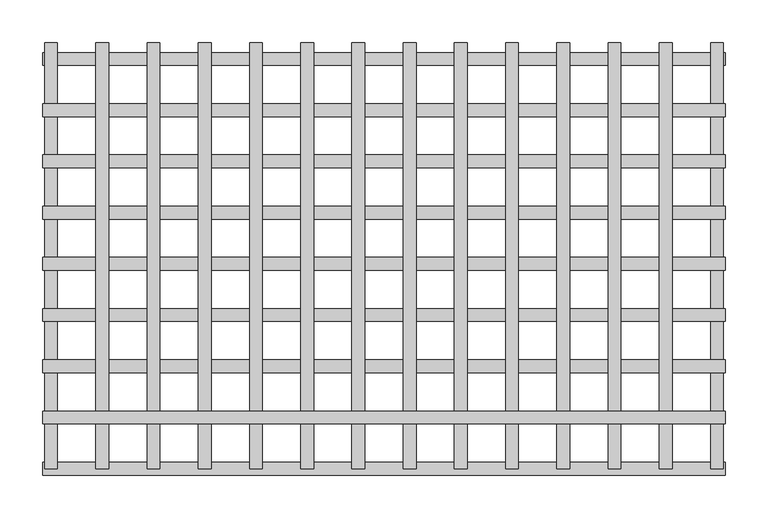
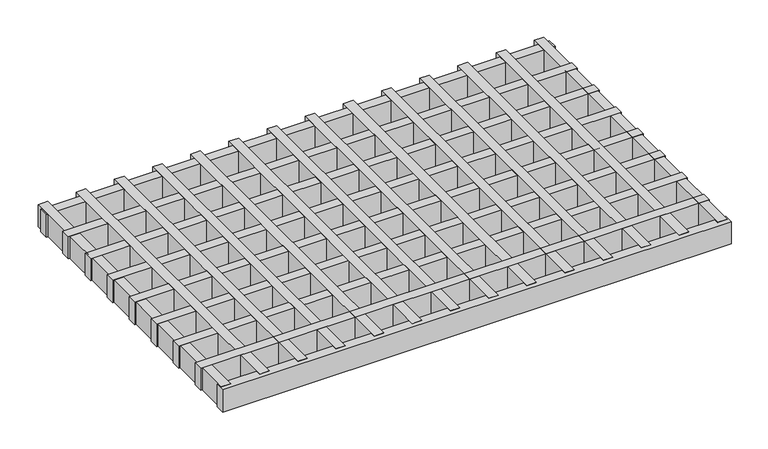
"""IFC4 building model written with IfcOpenShell, lengths in millimetres: proxy geometry, durlum_GEO_panel : durlum_GEO_15_corner_cut."""

from ifc_helpers import new_model, si_unit, origin, origin_with_axes, place, context, project, spatial, polyline, outline, extrude, source, transform, mapped, element, save


def generic_models_b3dbf1f4(model_context):
    return source(origin(), model_context, "Body", "SweptSolid", [
        extrude(outline(polyline([(399.75, -182.0), (399.75, -197.0), (-399.75, -197.0), (-399.75, -182.0), (399.75, -182.0)])), origin_with_axes(), (0.0, 0.0, 1.0), 37.0),
        extrude(outline(polyline([(322.5, 249.5), (337.5, 249.5), (337.5, -249.5), (322.5, -249.5), (322.5, 249.5)])), origin_with_axes(), (0.0, 0.0, 1.0), 37.0),
        extrude(outline(polyline([(262.5, 249.5), (277.5, 249.5), (277.5, -249.5), (262.5, -249.5), (262.5, 249.5)])), origin_with_axes(), (0.0, 0.0, 1.0), 37.0),
        extrude(outline(polyline([(202.5, 249.5), (217.5, 249.5), (217.5, -249.5), (202.5, -249.5), (202.5, 249.5)])), origin_with_axes(), (0.0, 0.0, 1.0), 37.0),
        extrude(outline(polyline([(142.5, 249.5), (157.5, 249.5), (157.5, -249.5), (142.5, -249.5), (142.5, 249.5)])), origin_with_axes(), (0.0, 0.0, 1.0), 37.0),
        extrude(outline(polyline([(82.5, 249.5), (97.5, 249.5), (97.5, -249.5), (82.5, -249.5), (82.5, 249.5)])), origin_with_axes(), (0.0, 0.0, 1.0), 37.0),
        extrude(outline(polyline([(22.5, 249.5), (37.5, 249.5), (37.5, -249.5), (22.5, -249.5), (22.5, 249.5)])), origin_with_axes(), (0.0, 0.0, 1.0), 37.0),
        extrude(outline(polyline([(-37.5, 249.5), (-22.5, 249.5), (-22.5, -249.5), (-37.5, -249.5), (-37.5, 249.5)])), origin_with_axes(), (0.0, 0.0, 1.0), 37.0),
        extrude(outline(polyline([(-97.5, 249.5), (-82.5, 249.5), (-82.5, -249.5), (-97.5, -249.5), (-97.5, 249.5)])), origin_with_axes(), (0.0, 0.0, 1.0), 37.0),
        extrude(outline(polyline([(-157.5, 249.5), (-142.5, 249.5), (-142.5, -249.5), (-157.5, -249.5), (-157.5, 249.5)])), origin_with_axes(), (0.0, 0.0, 1.0), 37.0),
        extrude(outline(polyline([(-217.5, 249.5), (-202.5, 249.5), (-202.5, -249.5), (-217.5, -249.5), (-217.5, 249.5)])), origin_with_axes(), (0.0, 0.0, 1.0), 37.0),
        extrude(outline(polyline([(-277.5, 249.5), (-262.5, 249.5), (-262.5, -249.5), (-277.5, -249.5), (-277.5, 249.5)])), origin_with_axes(), (0.0, 0.0, 1.0), 37.0),
        extrude(outline(polyline([(-337.5, 249.5), (-322.5, 249.5), (-322.5, -249.5), (-337.5, -249.5), (-337.5, 249.5)])), origin_with_axes(), (0.0, 0.0, 1.0), 37.0),
        extrude(outline(polyline([(399.75, -122.0), (399.75, -137.0), (-399.75, -137.0), (-399.75, -122.0), (399.75, -122.0)])), origin_with_axes(), (0.0, 0.0, 1.0), 37.0),
        extrude(outline(polyline([(399.75, -62.0), (399.75, -77.0), (-399.75, -77.0), (-399.75, -62.0), (399.75, -62.0)])), origin_with_axes(), (0.0, 0.0, 1.0), 37.0),
        extrude(outline(polyline([(399.75, -2.0), (399.75, -17.0), (-399.75, -17.0), (-399.75, -2.0), (399.75, -2.0)])), origin_with_axes(), (0.0, 0.0, 1.0), 37.0),
        extrude(outline(polyline([(399.75, 58.0), (399.75, 43.0), (-399.75, 43.0), (-399.75, 58.0), (399.75, 58.0)])), origin_with_axes(), (0.0, 0.0, 1.0), 37.0),
        extrude(outline(polyline([(399.75, 118.0), (399.75, 103.0), (-399.75, 103.0), (-399.75, 118.0), (399.75, 118.0)])), origin_with_axes(), (0.0, 0.0, 1.0), 37.0),
        extrude(outline(polyline([(399.75, 178.0), (399.75, 163.0), (-399.75, 163.0), (-399.75, 178.0), (399.75, 178.0)])), origin_with_axes(), (0.0, 0.0, 1.0), 37.0),
        extrude(outline(polyline([(382.5, 249.5), (397.5, 249.5), (397.5, -249.5), (382.5, -249.5), (382.5, 249.5)])), origin_with_axes(), (0.0, 0.0, 1.0), 37.0),
        extrude(outline(polyline([(-397.5, 249.5), (-382.5, 249.5), (-382.5, -249.5), (-397.5, -249.5), (-397.5, 249.5)])), origin_with_axes(), (0.0, 0.0, 1.0), 37.0),
        extrude(outline(polyline([(399.75, -242.0), (399.75, -257.0), (-399.75, -257.0), (-399.75, -242.0), (399.75, -242.0)])), origin_with_axes(), (0.0, 0.0, 1.0), 37.0),
        extrude(outline(polyline([(399.75, 238.0), (399.75, 223.0), (-399.75, 223.0), (-399.75, 238.0), (399.75, 238.0)])), origin_with_axes(), (0.0, 0.0, 1.0), 37.0),
    ])


if __name__ == "__main__":
    model = new_model("IFC4")
    model_context = context("Model", 3, world=origin())
    ifc_project = project(units=[si_unit("LENGTHUNIT", "METRE", prefix="MILLI")], contexts=[model_context])
    site = spatial("IfcSite", under=ifc_project)
    building = spatial("IfcBuilding", under=site)
    placement = place(None, origin())
    generic_models_shape = generic_models_b3dbf1f4(model_context)
    element("IfcBuildingElementProxy", 1, Name="durlum_GEO_panel : durlum_GEO_15_corner_cut", ObjectType="durlum_GEO_panel : durlum_GEO_15_corner_cut", at=placement, inside=building, context=model_context, shape_type="MappedRepresentation", body=[
        mapped(generic_models_shape, transform((0.0, 0.0, 0.0), x_axis=(1.0, 0.0, 0.0), y_axis=(0.0, 1.0, 0.0), z_axis=(0.0, 0.0, 1.0))),
    ])
    save(model, "model.ifc")
